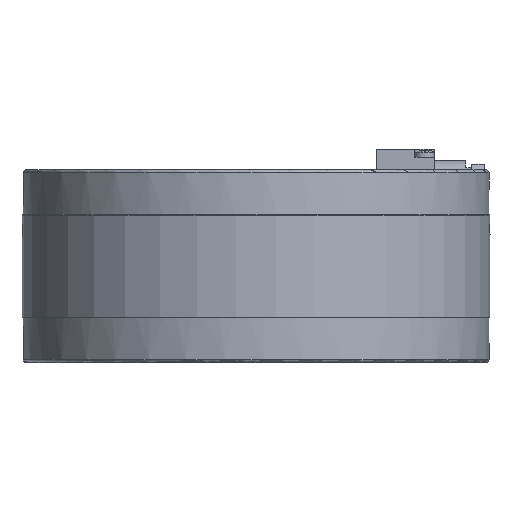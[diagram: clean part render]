
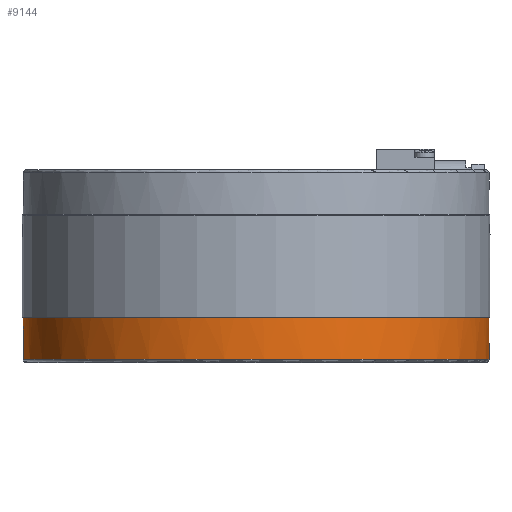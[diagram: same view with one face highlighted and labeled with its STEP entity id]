
A CAD part, front view. The second image highlights one B-rep face of the part: STEP entity #9144.
In plain terms, the highlighted cylindrical face has radius 72.5 mm (diameter 145 mm), a full revolution.
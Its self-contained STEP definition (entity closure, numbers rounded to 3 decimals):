
#5579=ELLIPSE('',#32731,102.53,72.5);
#5580=ELLIPSE('',#32733,102.53,72.5);
#6735=CYLINDRICAL_SURFACE('',#32734,72.5);
#7631=FACE_BOUND('',#13078,.T.);
#7632=FACE_BOUND('',#13079,.T.);
#9144=ADVANCED_FACE('',(#7631,#7632),#6735,.T.);
#13078=EDGE_LOOP('',(#20636));
#13079=EDGE_LOOP('',(#20637,#20638,#20639,#20640,#20641,#20642));
#14251=CIRCLE('',#32729,72.5);
#14252=CIRCLE('',#32730,72.5);
#14253=CIRCLE('',#32732,72.5);
#20636=ORIENTED_EDGE('',*,*,#26673,.T.);
#20637=ORIENTED_EDGE('',*,*,#26674,.T.);
#20638=ORIENTED_EDGE('',*,*,#26625,.T.);
#20639=ORIENTED_EDGE('',*,*,#26675,.T.);
#20640=ORIENTED_EDGE('',*,*,#26676,.F.);
#20641=ORIENTED_EDGE('',*,*,#26677,.T.);
#20642=ORIENTED_EDGE('',*,*,#26629,.T.);
#23309=VERTEX_POINT('',#59087);
#23310=VERTEX_POINT('',#59089);
#23313=VERTEX_POINT('',#59101);
#23314=VERTEX_POINT('',#59103);
#23355=VERTEX_POINT('',#59358);
#23356=VERTEX_POINT('',#59361);
#23357=VERTEX_POINT('',#59363);
#26625=EDGE_CURVE('',#23310,#23309,#28548,.T.);
#26629=EDGE_CURVE('',#23314,#23313,#28550,.T.);
#26673=EDGE_CURVE('',#23355,#23355,#14251,.T.);
#26674=EDGE_CURVE('',#23313,#23310,#14252,.T.);
#26675=EDGE_CURVE('',#23309,#23356,#5579,.T.);
#26676=EDGE_CURVE('',#23357,#23356,#14253,.T.);
#26677=EDGE_CURVE('',#23357,#23314,#5580,.T.);
#28548=LINE('',#59088,#30339);
#28550=LINE('',#59102,#30341);
#30339=VECTOR('',#39279,1.);
#30341=VECTOR('',#39281,1.);
#32729=AXIS2_PLACEMENT_3D('',#59357,#39333,#39334);
#32730=AXIS2_PLACEMENT_3D('',#59359,#39335,#39336);
#32731=AXIS2_PLACEMENT_3D('',#59360,#39337,#39338);
#32732=AXIS2_PLACEMENT_3D('',#59362,#39339,#39340);
#32733=AXIS2_PLACEMENT_3D('',#59364,#39341,#39342);
#32734=AXIS2_PLACEMENT_3D('',#59365,#39343,#39344);
#39279=DIRECTION('',(0.,0.,1.));
#39281=DIRECTION('',(0.,0.,-1.));
#39333=DIRECTION('',(0.,0.,1.));
#39334=DIRECTION('',(1.,0.,0.));
#39335=DIRECTION('',(0.,0.,-1.));
#39336=DIRECTION('',(-1.,0.,0.));
#39337=DIRECTION('',(0.,0.707,-0.707));
#39338=DIRECTION('',(0.,-0.707,-0.707));
#39339=DIRECTION('',(0.,0.,1.));
#39340=DIRECTION('',(1.,0.,0.));
#39341=DIRECTION('',(0.,0.707,-0.707));
#39342=DIRECTION('',(0.,-0.707,-0.707));
#39343=DIRECTION('',(0.,0.,-1.));
#39344=DIRECTION('',(-1.,0.,0.));
#59087=CARTESIAN_POINT('',(18.875,70.,-15.85));
#59088=CARTESIAN_POINT('',(18.875,70.,30.));
#59089=CARTESIAN_POINT('',(18.875,70.,-16.55));
#59101=CARTESIAN_POINT('',(-18.875,70.,-16.55));
#59102=CARTESIAN_POINT('',(-18.875,70.,30.));
#59103=CARTESIAN_POINT('',(-18.875,70.,-15.85));
#59357=CARTESIAN_POINT('',(0.,0.,-29.));
#59358=CARTESIAN_POINT('',(72.5,0.,-29.));
#59359=CARTESIAN_POINT('',(0.,0.,-16.55));
#59360=CARTESIAN_POINT('',(0.,0.,-85.85));
#59361=CARTESIAN_POINT('',(19.778,69.75,-16.1));
#59362=CARTESIAN_POINT('',(0.,0.,-16.1));
#59363=CARTESIAN_POINT('',(-19.778,69.75,-16.1));
#59364=CARTESIAN_POINT('',(0.,0.,-85.85));
#59365=CARTESIAN_POINT('',(0.,0.,30.));
